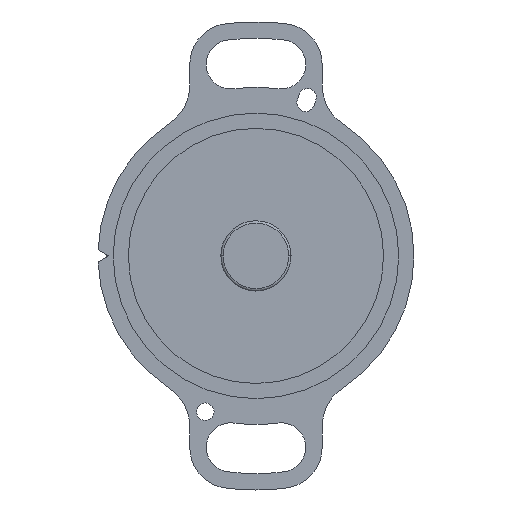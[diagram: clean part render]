
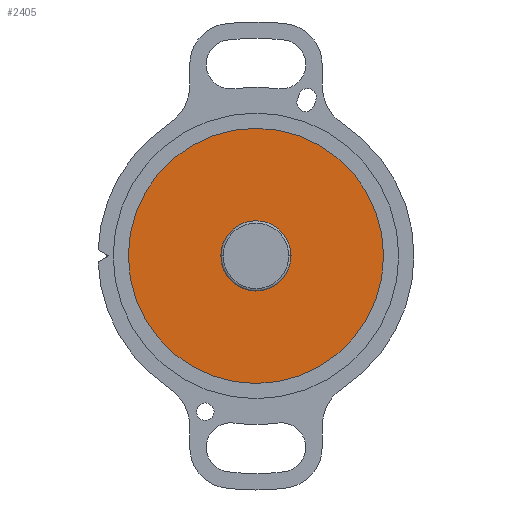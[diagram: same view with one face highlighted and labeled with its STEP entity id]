
A CAD part, front view. The second image highlights one B-rep face of the part: STEP entity #2405.
In plain terms, the highlighted planar face has unit normal (0, -1, 0).
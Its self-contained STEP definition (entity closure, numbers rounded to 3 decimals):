
#14 = CARTESIAN_POINT ( 'NONE',  ( 0., 0., 0. ) ) ;
#512 = EDGE_LOOP ( 'NONE', ( #1577, #4051 ) ) ;
#544 = DIRECTION ( 'NONE',  ( 0., 1., 0. ) ) ;
#1138 = EDGE_CURVE ( 'NONE', #1817, #2578, #3804, .T. ) ;
#1216 = CIRCLE ( 'NONE', #4054, 10.9 ) ;
#1285 = PLANE ( 'NONE',  #3597 ) ;
#1577 = ORIENTED_EDGE ( 'NONE', *, *, #4616, .T. ) ;
#1640 = DIRECTION ( 'NONE',  ( 0., -1., 0. ) ) ;
#1668 = CARTESIAN_POINT ( 'NONE',  ( -18.5, 0., 0. ) ) ;
#1779 = AXIS2_PLACEMENT_3D ( 'NONE', #4727, #1640, #1968 ) ;
#1817 = VERTEX_POINT ( 'NONE', #4794 ) ;
#1968 = DIRECTION ( 'NONE',  ( 0., 0., -1. ) ) ;
#2405 = ADVANCED_FACE ( 'NONE', ( #2836 ), #1285, .F. ) ;
#2463 = DIRECTION ( 'NONE',  ( 0., 0., 1. ) ) ;
#2578 = VERTEX_POINT ( 'NONE', #3678 ) ;
#2710 = DIRECTION ( 'NONE',  ( 0., -1., 0. ) ) ;
#2789 = DIRECTION ( 'NONE',  ( 0., 0., -1. ) ) ;
#2836 = FACE_OUTER_BOUND ( 'NONE', #512, .T. ) ;
#3597 = AXIS2_PLACEMENT_3D ( 'NONE', #1668, #544, #2463 ) ;
#3678 = CARTESIAN_POINT ( 'NONE',  ( 0., 0., -10.9 ) ) ;
#3804 = CIRCLE ( 'NONE', #1779, 10.9 ) ;
#4051 = ORIENTED_EDGE ( 'NONE', *, *, #1138, .T. ) ;
#4054 = AXIS2_PLACEMENT_3D ( 'NONE', #14, #2710, #2789 ) ;
#4616 = EDGE_CURVE ( 'NONE', #2578, #1817, #1216, .T. ) ;
#4727 = CARTESIAN_POINT ( 'NONE',  ( 0., 0., 0. ) ) ;
#4794 = CARTESIAN_POINT ( 'NONE',  ( 0., 0., 10.9 ) ) ;
